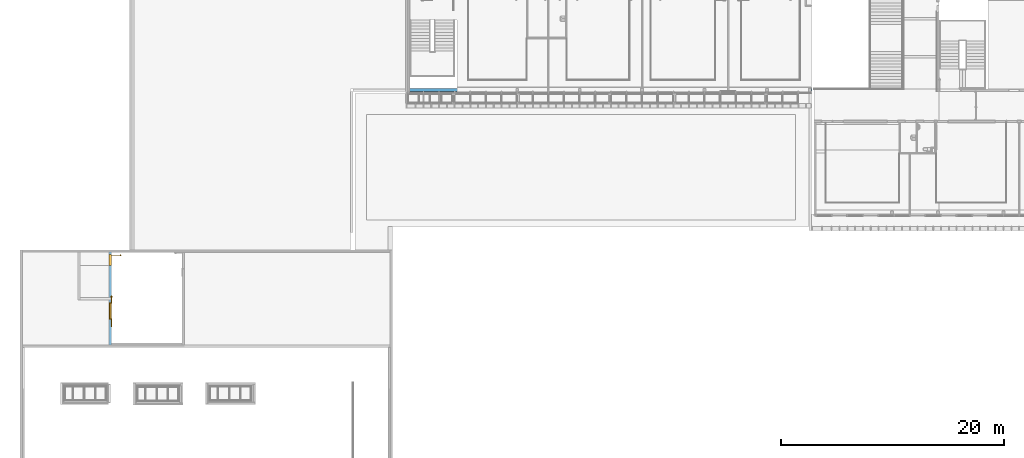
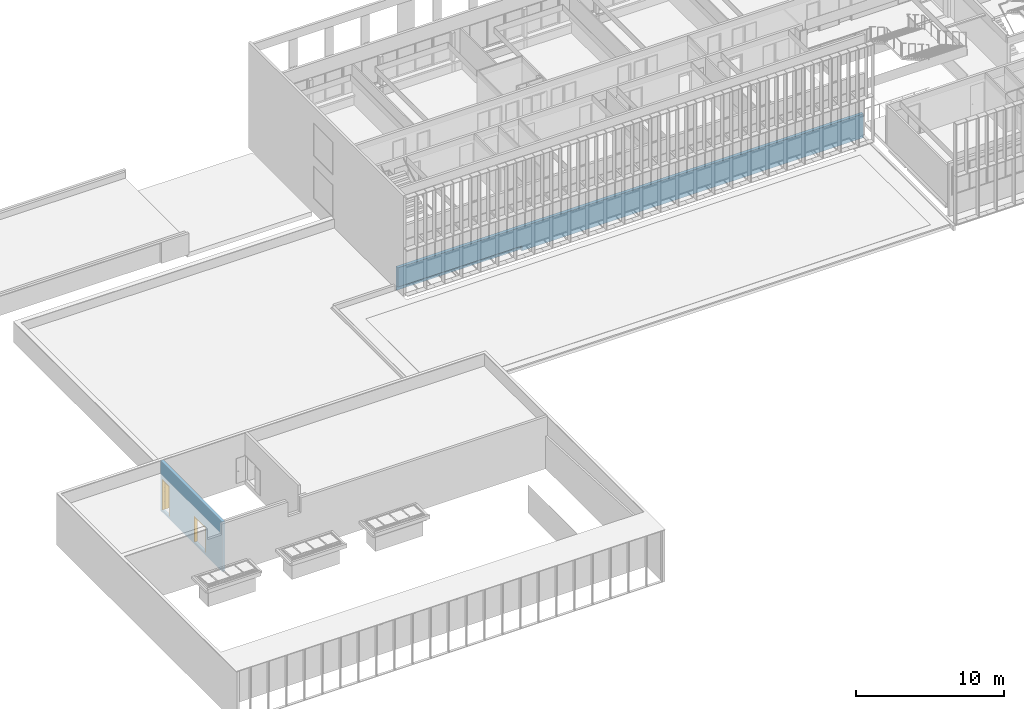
# One storey, part 92 of 106: 2 doors, 1 wall, 2 openings, plus 1 element that does not belong to this part.
"""IFC2X3 building model written with IfcOpenShell, lengths in centimetres."""

from ifc_helpers import new_model, entity, si_unit, converted_unit, derived_unit, direction, frame, frame_2d, origin, place, context, subcontext, project, spatial, rectangle, extrude, clip, halfspace, faceted_brep, source, transform, mapped, material, material_list, layer, layer_set, layer_usage, type_object, type_shapes, element, fill, save


model = new_model("IFC2X3")

# Units and contexts
model_context = context("Model", 3, precision=0.001, world=origin(), true_north=direction((6.12303176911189e-17, 1.0)))
body_context = subcontext(model_context, "Body", "Model", "MODEL_VIEW")
ifc_project = project(units=[si_unit("LENGTHUNIT", "METRE", prefix="CENTI"), si_unit("AREAUNIT", "SQUARE_METRE"), si_unit("VOLUMEUNIT", "CUBIC_METRE"), converted_unit("PLANEANGLEUNIT", "DEGREE", entity("IfcRatioMeasure", 0.0174532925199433), si_unit("PLANEANGLEUNIT", "RADIAN"), dimensions=[0, 0, 0, 0, 0, 0, 0]), si_unit("MASSUNIT", "GRAM", prefix="KILO"), derived_unit("MASSDENSITYUNIT", [(si_unit("MASSUNIT", "GRAM", prefix="KILO"), 1), (si_unit("LENGTHUNIT", "METRE"), -3)]), si_unit("TIMEUNIT", "SECOND"), si_unit("FREQUENCYUNIT", "HERTZ"), si_unit("THERMODYNAMICTEMPERATUREUNIT", "DEGREE_CELSIUS"), derived_unit("THERMALTRANSMITTANCEUNIT", [(si_unit("MASSUNIT", "GRAM", prefix="KILO"), 1), (si_unit("THERMODYNAMICTEMPERATUREUNIT", "KELVIN"), -1), (si_unit("TIMEUNIT", "SECOND"), -3)]), derived_unit("VOLUMETRICFLOWRATEUNIT", [(si_unit("LENGTHUNIT", "METRE"), 3), (si_unit("TIMEUNIT", "SECOND"), -1)]), si_unit("ELECTRICCURRENTUNIT", "AMPERE"), si_unit("ELECTRICVOLTAGEUNIT", "VOLT"), si_unit("POWERUNIT", "WATT"), si_unit("FORCEUNIT", "NEWTON", prefix="KILO"), si_unit("ILLUMINANCEUNIT", "LUX"), si_unit("LUMINOUSFLUXUNIT", "LUMEN"), si_unit("LUMINOUSINTENSITYUNIT", "CANDELA"), derived_unit("USERDEFINED", [(si_unit("MASSUNIT", "GRAM", prefix="KILO"), -1), (si_unit("LENGTHUNIT", "METRE"), -2), (si_unit("TIMEUNIT", "SECOND"), 3), (si_unit("LUMINOUSFLUXUNIT", "LUMEN"), 1)]), derived_unit("LINEARVELOCITYUNIT", [(si_unit("LENGTHUNIT", "METRE"), 1), (si_unit("TIMEUNIT", "SECOND"), -1)]), si_unit("PRESSUREUNIT", "PASCAL"), derived_unit("USERDEFINED", [(si_unit("LENGTHUNIT", "METRE"), -2), (si_unit("MASSUNIT", "GRAM", prefix="KILO"), 1), (si_unit("TIMEUNIT", "SECOND"), -2)])], contexts=[model_context])

# Site, building, storey
site_placement = place(None, frame((-2781.94577612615, 7442.24238424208, 0.0)))
site = spatial("IfcSite", under=ifc_project, at=site_placement, Name="Default", CompositionType="ELEMENT")
building_placement = place(site_placement, origin())
building = spatial("IfcBuilding", under=site, at=building_placement, CompositionType="ELEMENT")
storey_placement = place(building_placement, frame((0.0, 0.0, 422.0)))
storey = spatial("IfcBuildingStorey", under=building, at=storey_placement, Name="Toiture - Cuisine", CompositionType="ELEMENT", Elevation=421.999999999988)

# Wall
ifc_material_1 = material(Name="01 - Maçonnerie")
ifc_layer_1 = layer(ifc_material_1, 25.0)
ifc_layer_set_1 = layer_set([ifc_layer_1], Name="Mur de base:04 - Structure - béton - 25cm")
wall_type_1 = type_object("IfcWallType", Name="Mur de base:04 - Structure - béton - 25cm", PredefinedType="STANDARD", material=ifc_layer_set_1)
wall_1_placement = place(building_placement, frame((-8409.49987766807, -1917.57903364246, 313.0)))
element("IfcWall", 1, at=wall_1_placement, inside=storey, type_object=wall_type_1, Name="Mur de base:04 - Structure - béton - 25cm", ObjectType="Mur de base:04 - Structure - béton - 25cm", context=body_context, shape_type="Brep", body=[
    faceted_brep([(3621.50000006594, -12.5000000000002, 197.0), (0.0, -12.5, 197.0), (0.0, -12.5, 40.0), (964.999836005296, -12.5, 40.0), (964.999836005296, -12.5, 0.0), (3621.50000006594, -12.5000000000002, 0.0), (3621.50000006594, 12.4999999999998, 0.0), (935.0, 12.5, 0.0), (925.0, 12.4999999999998, 0.0), (0.0, 12.5, 0.0), (0.0, 12.5, 197.0), (3621.50000006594, 12.4999999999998, 197.0), (3621.50000006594, 6.18999999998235, 0.0), (964.999836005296, 7.49999999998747, 0.0), (643.0, 7.49999999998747, 0.0), (423.0, 7.49999999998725, 0.0), (0.0, 7.49999999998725, 0.0), (0.0, 7.49999999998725, 40.0), (964.999836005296, 7.49999999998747, 40.0)], [[[0, 1, 2, 3, 4, 5]], [[6, 7, 8, 9, 10, 11]], [[9, 8, 7, 6, 12, 5, 4, 13, 14, 15, 16]], [[1, 0, 11, 10]], [[0, 5, 12, 6, 11]], [[1, 10, 9, 16, 17, 2]], [[13, 18, 17, 16, 15, 14]], [[18, 3, 2, 17]], [[3, 18, 13, 4]]]),
])

# Wall, openings, doors
ifc_layer_2 = layer(ifc_material_1, 20.0)
ifc_layer_set_2 = layer_set([ifc_layer_2], Name="Mur de base:04 - Structure - béton - 20cm")
ifc_layer_usage = layer_usage(ifc_layer_set_2, "AXIS2", "NEGATIVE", 10.0)
wall_type_2 = type_object("IfcWallType", Name="Mur de base:04 - Structure - béton - 20cm", PredefinedType="STANDARD", material=ifc_layer_set_2)
wall_2_placement = place(building_placement, frame((-11076.882807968, -4205.50027342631, 328.0), z_axis=(0.0, 0.0, 1.0), x_axis=(0.0, 1.0, 0.0)))
wall_2 = element("IfcWallStandardCase", 2, at=wall_2_placement, inside=storey, type_object=wall_type_2, material=ifc_layer_usage, Name="Mur de base:04 - Structure - béton - 20cm", ObjectType="Mur de base:04 - Structure - béton - 20cm", context=body_context, shape_type="Clipping", body=[
    clip(extrude(rectangle(XDim=832.978466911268, YDim=19.9999999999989, at=frame_2d((416.489233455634, 0.0), x_axis=(-1.0, 0.0))), origin(), (0.0, 0.0, 1.0), 411.999999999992), halfspace(frame((832.978466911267, -10.0, 0.0), z_axis=(0.0, 0.0, -1.0), x_axis=(0.0, 1.0, 0.0)), False)),
])
opening_1_placement = place(wall_2_placement, frame((812.978466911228, 10.0, 21.0)))
opening_1 = element("IfcOpeningElement", 3, at=opening_1_placement, cuts=wall_2, Name="Int. Simple:PP EXT - Local poubelle  (0.93m x 2.50m):1", ObjectType="Opening", context=body_context, shape_type="SweptSolid", body=[
    extrude(rectangle(XDim=250.000000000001, YDim=99.9999999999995, at=frame_2d((125.000000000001, 49.9999999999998), x_axis=(1.0, 0.0))), frame((0.0, 0.0, 0.0), z_axis=(0.0, -1.0, 0.0), x_axis=(0.0, 0.0, 1.0)), (0.0, 0.0, 1.0), 20.0),
])
opening_2_placement = place(wall_2_placement, frame((378.280612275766, 10.0, 21.0)))
opening_2 = element("IfcOpeningElement", 4, at=opening_2_placement, cuts=wall_2, Name="Int. Double:PP (1.40m x 2.04m):1", ObjectType="Opening", context=body_context, shape_type="SweptSolid", body=[
    extrude(rectangle(XDim=207.500000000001, YDim=147.0, at=frame_2d((103.750000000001, 73.5000000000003), x_axis=(1.0, 0.0))), frame((0.0, 0.0, 0.0), z_axis=(0.0, -1.0, 0.0), x_axis=(0.0, 0.0, 1.0)), (0.0, 0.0, 1.0), 20.0),
])
ifc_material_2 = material(Name="Finition Peinture - Blanc satiné")
ifc_material_3 = material(Name="Aluminium")
ifc_material_list_1 = material_list([ifc_material_2, ifc_material_3])
ifc_material_list_2 = material_list([ifc_material_2, ifc_material_3])
door_style_1 = type_object("IfcDoorStyle", Name="PP EXT - Local poubelle  (0.93m x 2.50m)", ConstructionType="NOTDEFINED", OperationType="SINGLE_SWING_LEFT", ParameterTakesPrecedence=False, Sizeable=False, material=ifc_material_list_2)
shared_shape_1 = source(origin(), body_context, "Body", "Brep", [
    faceted_brep([(97.0, -85.9647238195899, 86.6003983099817), (97.0, -85.0, 87.0), (97.0, -85.0, 108.0), (97.0, -85.96472381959, 108.399601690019), (97.0, -87.0, 108.535898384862), (97.0, -88.0352761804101, 108.399601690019), (97.0, -89.0, 108.0), (97.0, -89.0, 87.0), (97.0, -88.03527618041, 86.6003983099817), (97.0, -87.0, 86.464101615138), (96.5000000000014, -85.96472381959, 108.399601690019), (96.5000000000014, -85.0, 108.0), (96.5000000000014, -85.0, 87.0), (96.5000000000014, -85.9647238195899, 86.6003983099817), (96.5000000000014, -87.0, 86.464101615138), (96.5000000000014, -88.03527618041, 86.6003983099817), (96.5000000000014, -89.0, 87.0), (96.5000000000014, -89.0, 108.0), (96.5000000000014, -88.0352761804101, 108.399601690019), (96.5000000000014, -87.0, 108.535898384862)], [[[0, 1, 2, 3, 4, 5, 6, 7, 8, 9]], [[10, 11, 12, 13, 14, 15, 16, 17, 18, 19]], [[16, 15, 8, 7]], [[8, 15, 14, 9]], [[14, 13, 0, 9]], [[13, 12, 1, 0]], [[2, 1, 12, 11]], [[11, 10, 3, 2]], [[3, 10, 19, 4]], [[19, 18, 5, 4]], [[18, 17, 6, 5]], [[7, 6, 17, 16]]]),
    faceted_brep([(92.5000000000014, -85.9647238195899, 86.6003983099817), (92.5000000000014, -85.0, 87.0), (92.5000000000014, -85.0, 108.0), (92.5000000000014, -85.96472381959, 108.399601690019), (92.5000000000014, -87.0, 108.535898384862), (92.5000000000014, -88.0352761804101, 108.399601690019), (92.5000000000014, -89.0, 108.0), (92.5000000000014, -89.0, 87.0), (92.5000000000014, -88.03527618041, 86.6003983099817), (92.5000000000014, -87.0, 86.464101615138), (92.0, -85.96472381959, 108.399601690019), (92.0, -85.0, 108.0), (92.0, -85.0, 87.0), (92.0, -85.9647238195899, 86.6003983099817), (92.0, -87.0, 86.464101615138), (92.0, -88.03527618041, 86.6003983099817), (92.0, -89.0, 87.0), (92.0, -89.0, 108.0), (92.0, -88.0352761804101, 108.399601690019), (92.0, -87.0, 108.535898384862)], [[[0, 1, 2, 3, 4, 5, 6, 7, 8, 9]], [[10, 11, 12, 13, 14, 15, 16, 17, 18, 19]], [[11, 10, 3, 2]], [[3, 10, 19, 4]], [[19, 18, 5, 4]], [[18, 17, 6, 5]], [[7, 6, 17, 16]], [[16, 15, 8, 7]], [[8, 15, 14, 9]], [[14, 13, 0, 9]], [[13, 12, 1, 0]], [[2, 1, 12, 11]]]),
    faceted_brep([(97.0, -87.2025298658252, 100.778044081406), (97.0, -86.7974701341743, 100.778044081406), (97.0, -86.3999999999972, 100.699999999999), (97.0, -86.3999999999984, 99.3000000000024), (97.0, -86.7974701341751, 99.2219559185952), (97.0, -87.202529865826, 99.221955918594), (97.0, -87.6000000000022, 99.2999999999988), (97.0, -87.6000000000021, 100.7), (99.7650950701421, -87.6000000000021, 100.7), (99.6004575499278, -87.2025298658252, 100.778044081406), (101.205345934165, -85.5976414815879, 100.778044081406), (100.800286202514, -85.4298602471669, 100.778044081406), (99.4326763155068, -86.7974701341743, 100.778044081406), (99.2680387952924, -86.3999999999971, 100.7), (99.2680387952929, -86.3999999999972, 99.3000000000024), (99.4326763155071, -86.7974701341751, 99.2219559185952), (100.800286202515, -85.4298602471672, 99.2219559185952), (101.205345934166, -85.5976414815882, 99.221955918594), (99.6004575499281, -87.202529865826, 99.221955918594), (99.7650950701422, -87.6000000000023, 99.2999999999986), (101.602816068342, -85.7622790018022, 100.7), (100.402816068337, -85.2652227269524, 100.7), (100.402816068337, -85.2652227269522, 99.3000000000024), (101.602816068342, -85.7622790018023, 99.2999999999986), (101.602816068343, -76.9981359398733, 99.2999999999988), (101.205345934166, -76.9981359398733, 99.221955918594), (100.800286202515, -76.9981359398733, 99.2219559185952), (100.402816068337, -76.9981359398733, 99.3000000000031), (100.402816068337, -76.9981359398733, 100.7), (100.800286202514, -76.9981359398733, 100.778044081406), (101.205345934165, -76.9981359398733, 100.778044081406), (101.602816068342, -76.9981359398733, 100.699999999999), (101.602816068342, -81.7692302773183, 100.7), (101.00281606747, -81.2139980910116, 100.78786867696), (100.402816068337, -81.1316793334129, 100.7), (100.402816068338, -81.1316793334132, 99.3000000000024), (101.002816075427, -81.2139981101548, 99.2121313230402), (101.602816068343, -81.7692299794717, 99.2999999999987)], [[[0, 1, 2, 3, 4, 5, 6, 7]], [[8, 9, 0, 7]], [[9, 10, 11, 12, 1, 0]], [[12, 13, 2, 1]], [[3, 2, 13, 14]], [[14, 15, 4, 3]], [[15, 16, 17, 18, 5, 4]], [[18, 19, 6, 5]], [[7, 6, 19, 8]], [[20, 10, 9, 8]], [[11, 21, 13, 12]], [[14, 13, 21, 22]], [[22, 16, 15, 14]], [[17, 23, 19, 18]], [[8, 19, 23, 20]], [[24, 25, 26, 27, 28, 29, 30, 31]], [[32, 30, 33]], [[31, 30, 32]], [[10, 20, 32]], [[33, 34, 11]], [[21, 11, 34]], [[34, 29, 28]], [[30, 29, 33]], [[29, 34, 33]], [[10, 32, 33]], [[10, 33, 11]], [[22, 21, 34, 28, 27, 35]], [[35, 26, 36]], [[37, 36, 25]], [[22, 35, 16]], [[35, 27, 26]], [[24, 37, 25]], [[23, 17, 37]], [[37, 17, 36]], [[17, 16, 36]], [[16, 35, 36]], [[25, 36, 26]], [[20, 23, 37, 24, 31, 32]]]),
    faceted_brep([(92.0, -87.2025298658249, 100.778044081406), (92.0, -87.6000000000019, 100.7), (92.0, -87.6000000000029, 99.2999999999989), (92.0, -87.2025298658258, 99.221955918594), (92.0, -86.7974701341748, 99.2219559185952), (92.0, -86.399999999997, 99.3000000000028), (92.0, -86.3999999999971, 100.7), (92.0, -86.797470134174, 100.778044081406), (89.7514795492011, -86.399999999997, 99.3000000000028), (89.751479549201, -86.399999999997, 100.7), (89.5868420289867, -86.7974701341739, 100.778044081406), (88.2054812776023, -85.4161093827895, 100.778044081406), (87.8004215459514, -85.5838906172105, 100.778044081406), (89.4190607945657, -87.2025298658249, 100.778044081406), (89.2544232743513, -87.6000000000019, 100.7), (89.2544232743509, -87.6000000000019, 99.2999999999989), (89.4190607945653, -87.2025298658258, 99.221955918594), (87.8004215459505, -85.5838906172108, 99.221955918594), (88.2054812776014, -85.4161093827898, 99.2219559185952), (89.5868420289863, -86.7974701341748, 99.2219559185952), (88.6029514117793, -85.2514718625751, 99.3000000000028), (88.6029514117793, -85.2514718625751, 100.7), (87.4029514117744, -85.7485281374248, 100.7), (87.4029514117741, -85.7485281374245, 99.2999999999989), (88.6029514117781, -76.9954216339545, 99.3000000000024), (88.2054812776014, -76.9954216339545, 99.2219559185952), (87.8004215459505, -76.9954216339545, 99.221955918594), (87.4029514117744, -76.9954216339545, 99.2999999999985), (87.4029514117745, -76.9954216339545, 100.7), (87.8004215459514, -76.9954216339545, 100.778044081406), (88.2054812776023, -76.9954216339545, 100.778044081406), (88.6029514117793, -76.9954216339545, 100.7), (88.6029514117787, -81.1234479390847, 99.3000000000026), (88.6029514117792, -81.1234467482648, 100.7), (88.0029514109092, -81.2057655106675, 100.78786867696), (87.4029514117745, -81.755479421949, 100.7), (87.4029514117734, -81.75547956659, 99.2999999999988), (88.0029514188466, -81.2057654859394, 99.2121313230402)], [[[0, 1, 2, 3, 4, 5, 6, 7]], [[6, 5, 8, 9]], [[9, 10, 7, 6]], [[10, 11, 12, 13, 0, 7]], [[13, 14, 1, 0]], [[2, 1, 14, 15]], [[15, 16, 3, 2]], [[16, 17, 18, 19, 4, 3]], [[19, 8, 5, 4]], [[9, 8, 20, 21]], [[21, 11, 10, 9]], [[12, 22, 14, 13]], [[15, 14, 22, 23]], [[23, 17, 16, 15]], [[18, 20, 8, 19]], [[24, 25, 26, 27, 28, 29, 30, 31]], [[21, 20, 32, 24, 31, 33]], [[33, 30, 34]], [[35, 34, 29]], [[21, 33, 11]], [[33, 31, 30]], [[28, 35, 29]], [[22, 12, 35]], [[35, 12, 34]], [[12, 11, 34]], [[11, 33, 34]], [[29, 34, 30]], [[22, 35, 28, 27, 36, 23]], [[36, 26, 37]], [[27, 26, 36]], [[17, 23, 36]], [[37, 32, 18]], [[20, 18, 32]], [[32, 25, 24]], [[26, 25, 37]], [[25, 32, 37]], [[17, 36, 37]], [[17, 37, 18]]]),
    faceted_brep([(92.5000000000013, -93.0, 246.5), (92.5000000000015, 0.0, 246.5), (92.5000000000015, 0.0, 0.0), (92.5000000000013, -93.0, 0.0), (96.5000000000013, -93.0, 246.5), (96.5000000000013, -93.0, 0.0), (96.5000000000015, 0.0, 0.0), (96.5000000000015, 0.0, 246.5)], [[[0, 1, 2, 3]], [[4, 5, 6, 7]], [[1, 0, 4, 7]], [[2, 1, 7, 6]], [[3, 2, 6, 5]], [[0, 3, 5, 4]]]),
    faceted_brep([(0.0, 20.0, 0.0), (-1.50000000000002, 20.0, 0.0), (-1.50000000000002, 20.5000000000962, 0.0), (5.0, 20.5000000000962, 0.0), (5.0, 4.0, 0.0), (3.50000000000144, 4.0, 0.0), (3.50000000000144, -0.500000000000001, 0.0), (-1.50000000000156, -0.500000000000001, 0.0), (-1.50000000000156, 0.0, 0.0), (0.0, 0.0, 0.0), (0.0, 20.0, 250.0), (100.0, 20.0, 250.0), (100.0, 20.0, 0.0), (101.5, 20.0, 0.0), (101.5, 20.0, 251.500000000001), (-1.50000000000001, 20.0, 251.500000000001), (-1.50000000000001, 20.5000000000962, 251.500000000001), (101.5, 20.5000000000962, 251.500000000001), (101.5, 20.5000000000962, 0.0), (95.0, 20.5000000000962, 0.0), (95.0, 20.5000000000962, 245.0), (5.0, 20.5000000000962, 245.0), (5.0, 4.0, 245.0), (95.0, 4.0, 245.0), (95.0, 4.0, 0.0), (96.499999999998, 4.0, 0.0), (96.499999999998, 4.0, 246.5), (3.50000000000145, 4.0, 246.5), (3.50000000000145, -0.500000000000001, 246.5), (96.499999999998, -0.500000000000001, 246.5), (96.499999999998, -0.500000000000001, 0.0), (101.500000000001, -0.500000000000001, 0.0), (101.500000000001, -0.500000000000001, 251.500000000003), (-1.50000000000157, -0.500000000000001, 251.500000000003), (-1.50000000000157, 0.0, 251.500000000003), (101.500000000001, 0.0, 251.500000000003), (101.500000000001, 0.0, 0.0), (100.0, 0.0, 0.0), (100.0, 0.0, 250.0), (0.0, 0.0, 250.0)], [[[0, 1, 2, 3, 4, 5, 6, 7, 8, 9]], [[1, 0, 10, 11, 12, 13, 14, 15]], [[2, 1, 15, 16]], [[3, 2, 16, 17, 18, 19, 20, 21]], [[3, 21, 22, 4]], [[5, 4, 22, 23, 24, 25, 26, 27]], [[5, 27, 28, 6]], [[7, 6, 28, 29, 30, 31, 32, 33]], [[8, 7, 33, 34]], [[9, 8, 34, 35, 36, 37, 38, 39]], [[0, 9, 39, 10]], [[11, 38, 37, 12]], [[12, 37, 36, 31, 30, 25, 24, 19, 18, 13]], [[17, 14, 13, 18]], [[23, 20, 19, 24]], [[29, 26, 25, 30]], [[35, 32, 31, 36]], [[16, 15, 14, 17]], [[22, 21, 20, 23]], [[28, 27, 26, 29]], [[34, 33, 32, 35]], [[10, 39, 38, 11]]]),
])
type_shapes(door_style_1, [shared_shape_1])
door_1_placement = place(opening_1_placement, frame((-100.0, -20.0, 0.0)))
door_1 = element("IfcDoor", 5, at=door_1_placement, inside=storey, type_object=door_style_1, material=ifc_material_list_1, Name="Int. Simple:PP EXT - Local poubelle  (0.93m x 2.50m)", ObjectType="Int. Simple:PP EXT - Local poubelle  (0.93m x 2.50m)", OverallHeight=250.000000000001, OverallWidth=99.9999999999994, context=body_context, shape_type="MappedRepresentation", body=[
    mapped(shared_shape_1, transform((0.0, 0.0, 0.0), scale=1.0)),
])
fill(opening_1, door_1)
ifc_material_4 = material(Name="Bois - Panneau de porte")
ifc_material_5 = material(Name="Bois - Cadre de porte")
ifc_material_list_3 = material_list([ifc_material_4, ifc_material_2, ifc_material_5])
ifc_material_list_4 = material_list([ifc_material_4, ifc_material_2, ifc_material_5])
door_style_2 = type_object("IfcDoorStyle", Name="PP (1.40m x 2.04m)", ConstructionType="NOTDEFINED", OperationType="DOUBLE_DOOR_SINGLE_SWING", ParameterTakesPrecedence=False, Sizeable=False, material=ifc_material_list_4)
shared_shape_2 = source(origin(), body_context, "Body", "Brep", [
    faceted_brep([(-66.4999999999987, -4.0, 204.0), (-66.4999999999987, -4.0, 0.0), (3.50000000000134, -4.0, 0.0), (3.50000000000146, -4.0, 204.0), (-66.4999999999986, 0.0, 204.0), (3.50000000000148, 0.0, 204.0), (3.50000000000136, 0.0, 0.0), (-66.4999999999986, 0.0, 0.0)], [[[0, 1, 2, 3]], [[4, 5, 6, 7]], [[3, 5, 4, 0]], [[2, 6, 5, 3]], [[1, 7, 6, 2]], [[0, 4, 7, 1]]]),
    faceted_brep([(206.464723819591, 0.499999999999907, 86.6003983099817), (205.500000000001, 0.499999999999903, 87.0), (205.500000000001, 0.499999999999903, 108.0), (206.464723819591, 0.499999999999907, 108.399601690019), (207.500000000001, 0.49999999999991, 108.535898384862), (208.535276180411, 0.499999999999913, 108.399601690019), (209.500000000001, 0.499999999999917, 108.0), (209.500000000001, 0.499999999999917, 87.0), (208.535276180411, 0.499999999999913, 86.6003983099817), (207.500000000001, 0.49999999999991, 86.464101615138), (206.464723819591, 0.0, 108.399601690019), (205.500000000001, 0.0, 108.0), (205.500000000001, 0.0, 87.0), (206.464723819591, 0.0, 86.6003983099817), (207.500000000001, 0.0, 86.464101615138), (208.535276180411, 0.0, 86.6003983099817), (209.500000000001, 0.0, 87.0), (209.500000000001, 0.0, 108.0), (208.535276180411, 0.0, 108.399601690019), (207.500000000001, 0.0, 108.535898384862)], [[[0, 1, 2, 3, 4, 5, 6, 7, 8, 9]], [[10, 11, 12, 13, 14, 15, 16, 17, 18, 19]], [[16, 15, 8, 7]], [[8, 15, 14, 9]], [[14, 13, 0, 9]], [[13, 12, 1, 0]], [[2, 1, 12, 11]], [[11, 10, 3, 2]], [[3, 10, 19, 4]], [[19, 18, 5, 4]], [[18, 17, 6, 5]], [[7, 6, 17, 16]]]),
    faceted_brep([(206.464723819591, -4.0, 86.6003983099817), (205.500000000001, -4.0, 87.0), (205.500000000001, -4.0, 108.0), (206.464723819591, -4.0, 108.399601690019), (207.500000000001, -4.0, 108.535898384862), (208.535276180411, -4.0, 108.399601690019), (209.500000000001, -4.0, 108.0), (209.500000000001, -4.0, 87.0), (208.535276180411, -4.0, 86.6003983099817), (207.500000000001, -4.0, 86.464101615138), (206.464723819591, -4.50000000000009, 108.399601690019), (205.500000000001, -4.50000000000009, 108.0), (205.500000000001, -4.50000000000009, 87.0), (206.464723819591, -4.50000000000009, 86.6003983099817), (207.500000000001, -4.50000000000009, 86.464101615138), (208.535276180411, -4.50000000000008, 86.6003983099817), (209.500000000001, -4.50000000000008, 87.0), (209.500000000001, -4.50000000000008, 108.0), (208.535276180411, -4.50000000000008, 108.399601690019), (207.500000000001, -4.50000000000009, 108.535898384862)], [[[0, 1, 2, 3, 4, 5, 6, 7, 8, 9]], [[10, 11, 12, 13, 14, 15, 16, 17, 18, 19]], [[11, 10, 3, 2]], [[3, 10, 19, 4]], [[19, 18, 5, 4]], [[18, 17, 6, 5]], [[7, 6, 17, 16]], [[16, 15, 8, 7]], [[8, 15, 14, 9]], [[14, 13, 0, 9]], [[13, 12, 1, 0]], [[2, 1, 12, 11]]]),
    faceted_brep([(207.702529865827, 0.499999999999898, 100.778044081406), (207.297470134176, 0.499999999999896, 100.778044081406), (206.899999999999, 0.499999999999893, 100.699999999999), (206.9, 0.499999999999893, 99.3000000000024), (207.297470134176, 0.499999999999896, 99.2219559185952), (207.702529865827, 0.499999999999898, 99.221955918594), (208.100000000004, 0.499999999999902, 99.2999999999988), (208.100000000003, 0.499999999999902, 100.7), (208.100000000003, 3.26509507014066, 100.7), (207.702529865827, 3.10045754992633, 100.778044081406), (206.097641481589, 4.70534593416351, 100.778044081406), (205.929860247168, 4.30028620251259, 100.778044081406), (207.297470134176, 2.9326763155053, 100.778044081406), (206.899999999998, 2.76803879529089, 100.7), (206.899999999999, 2.76803879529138, 99.3000000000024), (207.297470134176, 2.93267631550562, 99.2219559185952), (205.929860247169, 4.30028620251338, 99.2219559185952), (206.09764148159, 4.7053459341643, 99.221955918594), (207.702529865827, 3.10045754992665, 99.221955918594), (208.100000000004, 3.26509507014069, 99.2999999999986), (206.262279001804, 5.10281606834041, 100.7), (205.765222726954, 3.90281606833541, 100.7), (205.765222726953, 3.90281606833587, 99.3000000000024), (206.262279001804, 5.10281606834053, 99.2999999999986), (197.498135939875, 5.10281606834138, 99.2999999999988), (197.498135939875, 4.70534593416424, 99.221955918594), (197.498135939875, 4.30028620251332, 99.2219559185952), (197.498135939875, 3.90281606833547, 99.3000000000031), (197.498135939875, 3.9028160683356, 100.7), (197.498135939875, 4.30028620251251, 100.778044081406), (197.498135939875, 4.70534593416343, 100.778044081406), (197.498135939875, 5.10281606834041, 100.699999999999), (202.26923027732, 5.10281606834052, 100.7), (201.713998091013, 4.50281606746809, 100.78786867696), (201.631679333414, 3.90281606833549, 100.7), (201.631679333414, 3.90281606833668, 99.3000000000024), (201.713998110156, 4.50281607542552, 99.2121313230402), (202.269229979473, 5.10281606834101, 99.2999999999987)], [[[0, 1, 2, 3, 4, 5, 6, 7]], [[8, 9, 0, 7]], [[9, 10, 11, 12, 1, 0]], [[12, 13, 2, 1]], [[3, 2, 13, 14]], [[14, 15, 4, 3]], [[15, 16, 17, 18, 5, 4]], [[18, 19, 6, 5]], [[7, 6, 19, 8]], [[20, 10, 9, 8]], [[11, 21, 13, 12]], [[14, 13, 21, 22]], [[22, 16, 15, 14]], [[17, 23, 19, 18]], [[8, 19, 23, 20]], [[24, 25, 26, 27, 28, 29, 30, 31]], [[32, 30, 33]], [[31, 30, 32]], [[10, 20, 32]], [[33, 34, 11]], [[21, 11, 34]], [[34, 29, 28]], [[30, 29, 33]], [[29, 34, 33]], [[10, 32, 33]], [[10, 33, 11]], [[22, 21, 34, 28, 27, 35]], [[35, 26, 36]], [[37, 36, 25]], [[22, 35, 16]], [[35, 27, 26]], [[24, 37, 25]], [[23, 17, 37]], [[37, 17, 36]], [[17, 16, 36]], [[16, 35, 36]], [[25, 36, 26]], [[20, 23, 37, 24, 31, 32]]]),
    faceted_brep([(207.702529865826, -4.5000000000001, 100.778044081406), (208.100000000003, -4.5000000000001, 100.7), (208.100000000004, -4.5000000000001, 99.2999999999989), (207.702529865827, -4.5000000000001, 99.221955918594), (207.297470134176, -4.5000000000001, 99.2219559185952), (206.899999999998, -4.5000000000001, 99.3000000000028), (206.899999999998, -4.5000000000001, 100.7), (207.297470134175, -4.5000000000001, 100.778044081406), (206.899999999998, -6.7485204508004, 99.3000000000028), (206.899999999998, -6.74852045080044, 100.7), (207.297470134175, -6.91315797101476, 100.778044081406), (205.916109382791, -8.29451872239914, 100.778044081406), (206.083890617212, -8.69957845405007, 100.778044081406), (207.702529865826, -7.08093920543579, 100.778044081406), (208.100000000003, -7.24557672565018, 100.7), (208.100000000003, -7.2455767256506, 99.2999999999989), (207.702529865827, -7.08093920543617, 99.221955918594), (206.083890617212, -8.69957845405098, 99.221955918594), (205.916109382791, -8.29451872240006, 99.2219559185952), (207.297470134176, -6.91315797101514, 99.2219559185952), (205.751471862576, -7.89704858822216, 99.3000000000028), (205.751471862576, -7.89704858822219, 100.7), (206.248528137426, -9.09704858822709, 100.7), (206.248528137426, -9.0970485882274, 99.2999999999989), (197.495421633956, -7.89704858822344, 99.3000000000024), (197.495421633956, -8.29451872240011, 99.2219559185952), (197.495421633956, -8.69957845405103, 99.221955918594), (197.495421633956, -9.09704858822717, 99.2999999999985), (197.495421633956, -9.09704858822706, 100.7), (197.495421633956, -8.69957845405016, 100.778044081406), (197.495421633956, -8.29451872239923, 100.778044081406), (197.495421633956, -7.89704858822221, 100.7), (201.623447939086, -7.89704858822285, 99.3000000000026), (201.623446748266, -7.89704858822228, 100.7), (201.705765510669, -8.49704858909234, 100.78786867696), (202.25547942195, -9.09704858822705, 100.7), (202.255479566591, -9.09704858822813, 99.2999999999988), (201.705765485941, -8.49704858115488, 99.2121313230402)], [[[0, 1, 2, 3, 4, 5, 6, 7]], [[6, 5, 8, 9]], [[9, 10, 7, 6]], [[10, 11, 12, 13, 0, 7]], [[13, 14, 1, 0]], [[2, 1, 14, 15]], [[15, 16, 3, 2]], [[16, 17, 18, 19, 4, 3]], [[19, 8, 5, 4]], [[9, 8, 20, 21]], [[21, 11, 10, 9]], [[12, 22, 14, 13]], [[15, 14, 22, 23]], [[23, 17, 16, 15]], [[18, 20, 8, 19]], [[24, 25, 26, 27, 28, 29, 30, 31]], [[21, 20, 32, 24, 31, 33]], [[33, 30, 34]], [[35, 34, 29]], [[21, 33, 11]], [[33, 31, 30]], [[28, 35, 29]], [[22, 12, 35]], [[35, 12, 34]], [[12, 11, 34]], [[11, 33, 34]], [[29, 34, 30]], [[22, 35, 28, 27, 36, 23]], [[36, 26, 37]], [[27, 26, 36]], [[17, 23, 36]], [[37, 32, 18]], [[20, 18, 32]], [[32, 25, 24]], [[26, 25, 37]], [[25, 32, 37]], [[17, 36, 37]], [[17, 37, 18]]]),
    faceted_brep([(213.500000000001, -4.0, 204.0), (143.500000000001, -4.0, 204.0), (143.500000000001, -4.0, 0.0), (213.500000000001, -4.0, 0.0), (213.500000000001, 0.0, 204.0), (213.500000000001, 0.0, 0.0), (143.500000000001, 0.0, 0.0), (143.500000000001, 0.0, 204.0)], [[[0, 1, 2, 3]], [[4, 5, 6, 7]], [[1, 0, 4, 7]], [[2, 1, 7, 6]], [[3, 2, 6, 5]], [[0, 3, 5, 4]]]),
    faceted_brep([(0.0, 0.0, 0.0), (0.0, 20.0, 0.0), (5.0, 20.0, 0.0), (5.0, 4.0, 0.0), (3.50000000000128, 4.0, 0.0), (3.50000000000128, 0.0, 0.0), (0.0, 0.0, 207.500000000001), (0.0, 20.0, 207.500000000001), (147.0, 20.0, 207.500000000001), (147.0, 20.0, 0.0), (142.0, 20.0, 0.0), (142.0, 20.0, 202.5), (5.0, 20.0, 202.5), (5.0, 4.0, 202.5), (142.0, 4.0, 202.5), (142.0, 4.0, 0.0), (143.499999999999, 4.0, 0.0), (143.499999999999, 4.0, 204.0), (3.50000000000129, 4.0, 204.0), (3.50000000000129, 0.0, 204.0), (143.499999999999, 0.0, 204.0), (143.499999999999, 0.0, 0.0), (147.0, 0.0, 0.0), (147.0, 0.0, 207.500000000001)], [[[0, 1, 2, 3, 4, 5]], [[1, 0, 6, 7]], [[2, 1, 7, 8, 9, 10, 11, 12]], [[3, 2, 12, 13]], [[4, 3, 13, 14, 15, 16, 17, 18]], [[5, 4, 18, 19]], [[0, 5, 19, 20, 21, 22, 23, 6]], [[8, 23, 22, 9]], [[22, 21, 16, 15, 10, 9]], [[14, 11, 10, 15]], [[20, 17, 16, 21]], [[7, 6, 23, 8]], [[13, 12, 11, 14]], [[19, 18, 17, 20]]]),
    faceted_brep([(1.50000000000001, 20.0, 0.0), (-1.49999999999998, 20.0, 0.0), (-1.49999999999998, 20.5000000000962, 0.0), (1.50000000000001, 20.5000000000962, 0.0), (1.50000000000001, 20.0, 206.0), (145.5, 20.0, 206.0), (145.5, 20.0, 0.0), (148.5, 20.0, 0.0), (148.5, 20.0, 209.0), (-1.49999999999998, 20.0, 209.0), (-1.49999999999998, 20.5000000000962, 209.0), (148.5, 20.5000000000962, 209.0), (148.5, 20.5000000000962, 0.0), (145.5, 20.5000000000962, 0.0), (145.5, 20.5000000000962, 206.0), (1.50000000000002, 20.5000000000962, 206.0)], [[[0, 1, 2, 3]], [[1, 0, 4, 5, 6, 7, 8, 9]], [[2, 1, 9, 10]], [[3, 2, 10, 11, 12, 13, 14, 15]], [[0, 3, 15, 4]], [[5, 14, 13, 6]], [[6, 13, 12, 7]], [[11, 8, 7, 12]], [[10, 9, 8, 11]], [[4, 15, 14, 5]]]),
    faceted_brep([(-1.49999999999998, -0.500000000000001, 0.0), (1.50000000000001, -0.500000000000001, 0.0), (1.50000000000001, -0.500000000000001, 206.0), (145.5, -0.500000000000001, 206.0), (145.5, -0.500000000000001, 0.0), (148.5, -0.500000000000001, 0.0), (148.5, -0.500000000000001, 209.0), (-1.49999999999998, -0.500000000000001, 209.0), (-1.49999999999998, 0.0, 0.0), (-1.49999999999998, 0.0, 209.0), (1.50000000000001, 0.0, 0.0), (148.5, 0.0, 209.0), (148.5, 0.0, 0.0), (145.5, 0.0, 0.0), (145.5, 0.0, 206.0), (1.50000000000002, 0.0, 206.0)], [[[0, 1, 2, 3, 4, 5, 6, 7]], [[8, 0, 7, 9]], [[10, 8, 9, 11, 12, 13, 14, 15]], [[1, 10, 15, 2]], [[3, 14, 13, 4]], [[11, 6, 5, 12]], [[9, 7, 6, 11]], [[2, 15, 14, 3]], [[4, 13, 12, 5]], [[1, 0, 8, 10]]]),
])
type_shapes(door_style_2, [shared_shape_2])
door_2_placement = place(opening_2_placement, frame((-147.0, -20.0, 0.0)))
door_2 = element("IfcDoor", 6, at=door_2_placement, inside=storey, type_object=door_style_2, material=ifc_material_list_3, Name="Int. Double:PP (1.40m x 2.04m)", ObjectType="Int. Double:PP (1.40m x 2.04m)", OverallHeight=207.500000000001, OverallWidth=147.0, context=body_context, shape_type="MappedRepresentation", body=[
    mapped(shared_shape_2, transform((0.0, 0.0, 0.0), scale=1.0)),
])
fill(opening_2, door_2)

save(model, "model.ifc")
